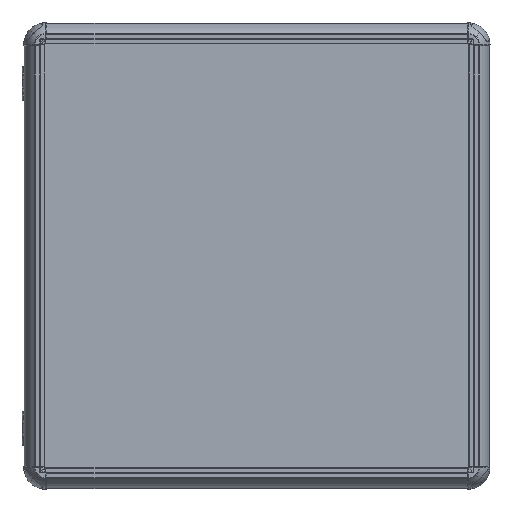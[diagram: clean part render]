
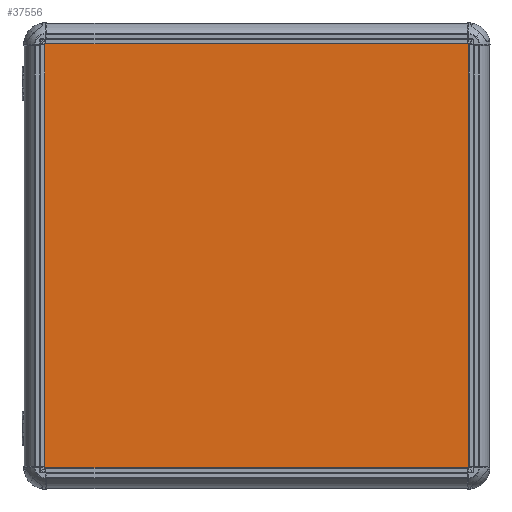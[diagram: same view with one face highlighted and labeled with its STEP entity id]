
A CAD part, top view. The second image highlights one B-rep face of the part: STEP entity #37556.
In plain terms, the highlighted planar face has unit normal (0, 0, 1).
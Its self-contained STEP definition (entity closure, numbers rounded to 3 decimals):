
#527 = VECTOR ( 'NONE', #105254, 1000. ) ;
#11042 = CARTESIAN_POINT ( 'NONE',  ( -250., 250., 2. ) ) ;
#21259 = ORIENTED_EDGE ( 'NONE', *, *, #101465, .T. ) ;
#21908 = CARTESIAN_POINT ( 'NONE',  ( -250., -250., 2. ) ) ;
#21935 = VERTEX_POINT ( 'NONE', #56057 ) ;
#23643 = LINE ( 'NONE', #11042, #105121 ) ;
#25260 = PLANE ( 'NONE',  #112061 ) ;
#36626 = EDGE_CURVE ( 'NONE', #21935, #90376, #23643, .T. ) ;
#37556 = ADVANCED_FACE ( 'NONE', ( #110892 ), #25260, .T. ) ;
#43977 = ORIENTED_EDGE ( 'NONE', *, *, #127033, .T. ) ;
#56057 = CARTESIAN_POINT ( 'NONE',  ( -250., 250., 2. ) ) ;
#56784 = CARTESIAN_POINT ( 'NONE',  ( -250., -250., 2. ) ) ;
#60055 = DIRECTION ( 'NONE',  ( 0., -1., 0. ) ) ;
#63221 = DIRECTION ( 'NONE',  ( 0., 0., 1. ) ) ;
#64339 = LINE ( 'NONE', #147599, #135247 ) ;
#67696 = VECTOR ( 'NONE', #145751, 1000. ) ;
#68692 = LINE ( 'NONE', #56784, #527 ) ;
#90376 = VERTEX_POINT ( 'NONE', #21908 ) ;
#92952 = CARTESIAN_POINT ( 'NONE',  ( 250., -250., 2. ) ) ;
#100570 = DIRECTION ( 'NONE',  ( 1., 0., 0. ) ) ;
#101465 = EDGE_CURVE ( 'NONE', #90376, #121698, #68692, .T. ) ;
#105121 = VECTOR ( 'NONE', #60055, 1000. ) ;
#105254 = DIRECTION ( 'NONE',  ( 1., 0., 0. ) ) ;
#106243 = CARTESIAN_POINT ( 'NONE',  ( 250., 250., 2. ) ) ;
#106477 = ORIENTED_EDGE ( 'NONE', *, *, #112137, .T. ) ;
#110892 = FACE_OUTER_BOUND ( 'NONE', #122952, .T. ) ;
#111208 = CARTESIAN_POINT ( 'NONE',  ( 250., 250., 2. ) ) ;
#112061 = AXIS2_PLACEMENT_3D ( 'NONE', #122755, #63221, #100570 ) ;
#112137 = EDGE_CURVE ( 'NONE', #121698, #141947, #119682, .T. ) ;
#119682 = LINE ( 'NONE', #106243, #67696 ) ;
#121698 = VERTEX_POINT ( 'NONE', #92952 ) ;
#122755 = CARTESIAN_POINT ( 'NONE',  ( 0., 0., 2. ) ) ;
#122952 = EDGE_LOOP ( 'NONE', ( #106477, #43977, #125033, #21259 ) ) ;
#125033 = ORIENTED_EDGE ( 'NONE', *, *, #36626, .T. ) ;
#127033 = EDGE_CURVE ( 'NONE', #141947, #21935, #64339, .T. ) ;
#135247 = VECTOR ( 'NONE', #137282, 1000. ) ;
#137282 = DIRECTION ( 'NONE',  ( -1., 0., 0. ) ) ;
#141947 = VERTEX_POINT ( 'NONE', #111208 ) ;
#145751 = DIRECTION ( 'NONE',  ( 0., 1., 0. ) ) ;
#147599 = CARTESIAN_POINT ( 'NONE',  ( -250., 250., 2. ) ) ;
